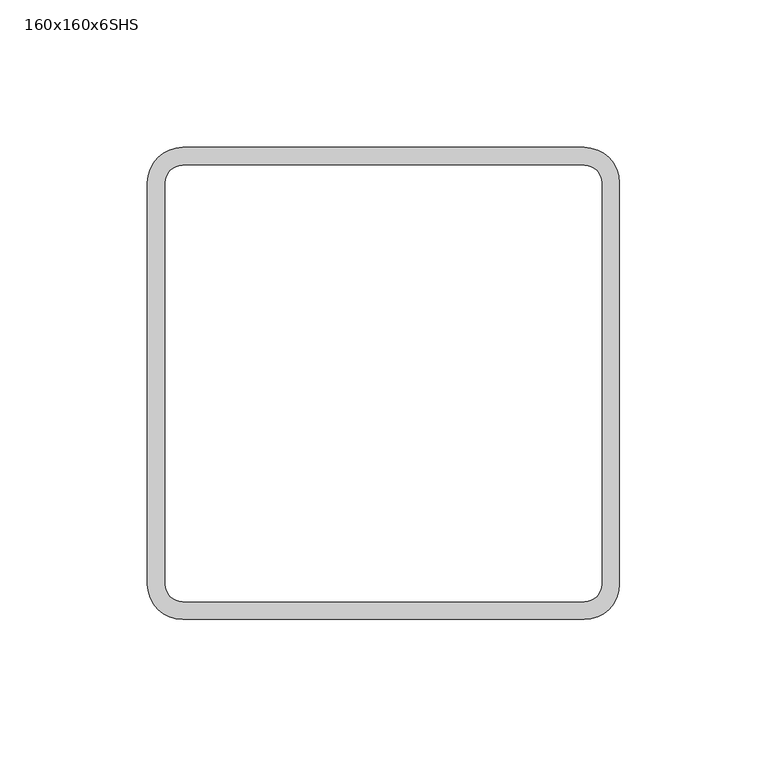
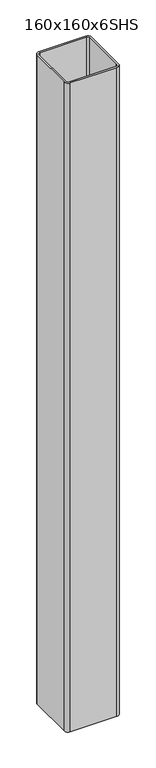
"""IFC4 building model written with IfcOpenShell, lengths in millimetres: column geometry, КПС-Квадратное пустотелое сечение-Колонна : 160x160x6SHS."""

from ifc_helpers import new_model, si_unit, point, frame_2d, origin, origin_with_axes, place, context, project, spatial, polyline, circle_curve, trimmed, segment, composite_curve, outline, extrude, source, transform, mapped, element, save


def column_160x160x6shs_eccf6851(model_context):
    return source(origin(), model_context, "Body", "SweptSolid", [
        extrude(outline(composite_curve([segment(trimmed(circle_curve(frame_2d((68.0, 68.0)), 12.0), [point((68.0, 80.0))], [point((80.0, 68.0))], False, "CARTESIAN"), True, "CONTINUOUS"), segment(polyline([(80.0, 68.0), (80.0, -68.0)]), True, "CONTINUOUS"), segment(trimmed(circle_curve(frame_2d((68.0, -68.0)), 12.0), [point((80.0, -68.0))], [point((68.0, -80.0))], False, "CARTESIAN"), True, "CONTINUOUS"), segment(polyline([(68.0, -80.0), (-68.0, -80.0)]), True, "CONTINUOUS"), segment(trimmed(circle_curve(frame_2d((-68.0, -68.0)), 12.0), [point((-68.0, -80.0))], [point((-80.0, -68.0))], False, "CARTESIAN"), True, "CONTINUOUS"), segment(polyline([(-80.0, -68.0), (-80.0, 68.0)]), True, "CONTINUOUS"), segment(trimmed(circle_curve(frame_2d((-68.0, 68.0)), 12.0), [point((-80.0, 68.0))], [point((-68.0, 80.0))], False, "CARTESIAN"), True, "CONTINUOUS"), segment(polyline([(-68.0, 80.0), (68.0, 80.0)]), True, "CONTINUOUS")], self_intersect=False), holes=[composite_curve([segment(polyline([(68.0, 74.0), (-68.0, 74.0)]), True, "CONTINUOUS"), segment(trimmed(circle_curve(frame_2d((-68.0, 68.0)), 6.0), [point((-68.0, 74.0))], [point((-74.0, 68.0))], True, "CARTESIAN"), True, "CONTINUOUS"), segment(polyline([(-74.0, 68.0), (-74.0, -68.0)]), True, "CONTINUOUS"), segment(trimmed(circle_curve(frame_2d((-68.0, -68.0)), 6.0), [point((-74.0, -68.0))], [point((-68.0, -74.0))], True, "CARTESIAN"), True, "CONTINUOUS"), segment(polyline([(-68.0, -74.0), (68.0, -74.0)]), True, "CONTINUOUS"), segment(trimmed(circle_curve(frame_2d((68.0, -68.0)), 6.0), [point((68.0, -74.0))], [point((74.0, -68.0))], True, "CARTESIAN"), True, "CONTINUOUS"), segment(polyline([(74.0, -68.0), (74.0, 68.0)]), True, "CONTINUOUS"), segment(trimmed(circle_curve(frame_2d((68.0, 68.0)), 6.0), [point((74.0, 68.0))], [point((68.0, 74.0))], True, "CARTESIAN"), True, "CONTINUOUS")], self_intersect=False)]), origin_with_axes(), (0.0, 0.0, 1.0), 2015.0),
    ])


if __name__ == "__main__":
    model = new_model("IFC4")
    model_context = context("Model", 3, world=origin())
    ifc_project = project(units=[si_unit("LENGTHUNIT", "METRE", prefix="MILLI")], contexts=[model_context])
    site = spatial("IfcSite", under=ifc_project)
    building = spatial("IfcBuilding", under=site)
    placement = place(None, origin())
    column_160x160x6shs_shape = column_160x160x6shs_eccf6851(model_context)
    element("IfcColumn", 1, ObjectType="КПС-Квадратное пустотелое сечение-Колонна : 160x160x6SHS", at=placement, inside=building, context=model_context, shape_type="MappedRepresentation", body=[
        mapped(column_160x160x6shs_shape, transform((0.0, 0.0, 0.0), x_axis=(1.0, 0.0, 0.0), y_axis=(0.0, 1.0, 0.0), z_axis=(0.0, 0.0, 1.0))),
    ])
    save(model, "model.ifc")
